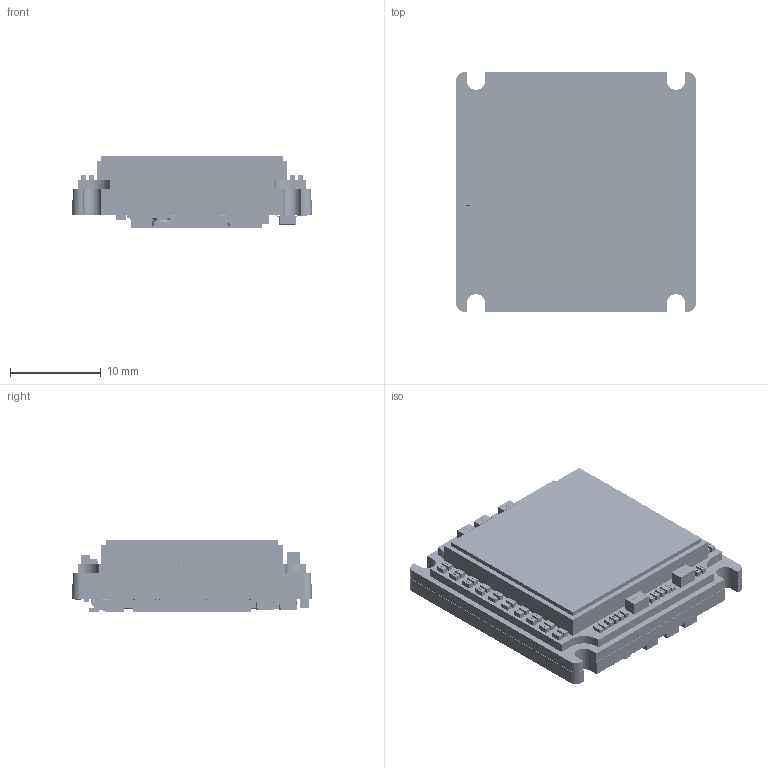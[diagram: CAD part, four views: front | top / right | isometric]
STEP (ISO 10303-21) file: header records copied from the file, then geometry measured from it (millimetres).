
FILE_DESCRIPTION (( 'STEP AP214' ), '1' );
FILE_NAME ('Alvium-CSI2-Bare-Board-IMX54X.STEP', '2021-02-23T14:55:37', ( '' ), ( '' ), 'SwSTEP 2.0', 'SolidWorks 2019', '' );
FILE_SCHEMA (( 'AUTOMOTIVE_DESIGN' ));
Length unit declared in the file: millimetre
Products named in the file (1): Alvium-CSI2-Bare-Board-IMX54X
Bounding box: 26.4 x 26.4 x 7.91 mm (x, y, z)
Surface area: 5156.1 mm2 (no closed solid volume)
Topology: 0 solids, 350 shells, 6024 faces, 19600 edges, 14513 vertices
Faces by surface type: plane 3415, bspline 1802, cylinder 803, cone 4
Full cylindrical faces by diameter (mm): 0.2 x1, 0.3 x2, 0.6 x227, 1 x5
Entity records: 428019 total; most frequent: CARTESIAN_POINT 208676, ORIENTED_EDGE 32963, DIRECTION 22725, EDGE_CURVE 19202, VERTEX_POINT 14445, LINE 11065, VECTOR 11065, EDGE_LOOP 7280
